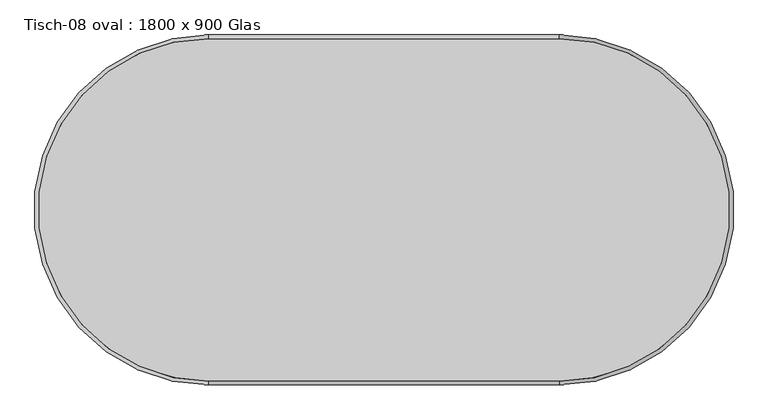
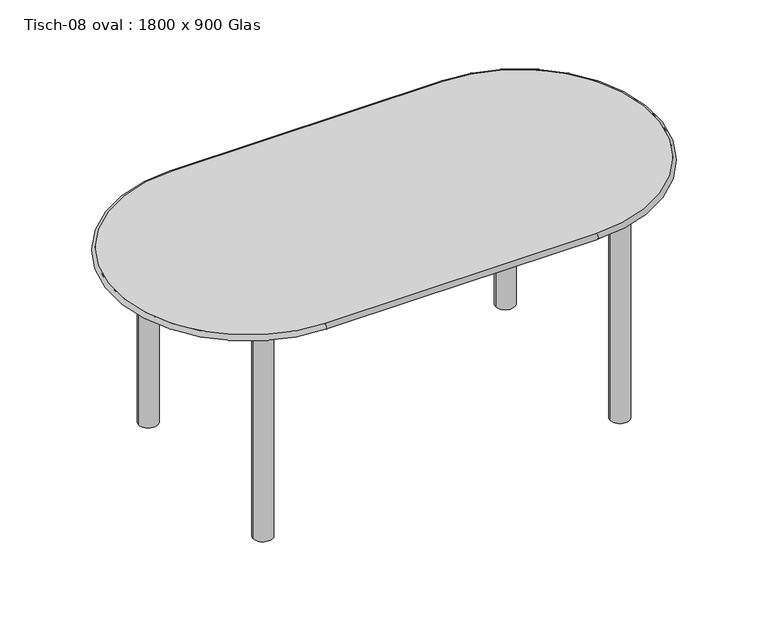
"""IFC4 building model written with IfcOpenShell, lengths in millimetres: furniture geometry, Tisch-08 oval : 1800 x 900 Glas."""

from ifc_helpers import new_model, si_unit, point, frame, frame_2d, origin, origin_with_axes, place, context, project, spatial, polyline, circle_curve, ellipse_curve, trimmed, segment, composite_curve, outline, extrude, source, transform, mapped, element, save
from ifc_brep_helpers import plane_surface, cylinder_surface, revolved_surface, advanced_brep


def tisch_08_oval_1800_x_900_glas_ae678d82(model_context):
    return source(origin(), model_context, "Body", "SolidModel", [
        extrude(outline(composite_curve([segment(trimmed(circle_curve(frame_2d((-993.5446721, -28.7483607)), 31.75), [point((-1025.2946721, -28.7483607))], [point((-961.7946721, -28.7483607))], False, "CARTESIAN"), True, "CONTINUOUS"), segment(trimmed(circle_curve(frame_2d((-993.5446721, -28.7483607)), 31.75), [point((-961.7946721, -28.7483607))], [point((-1025.2946721, -28.7483607))], False, "CARTESIAN"), True, "CONTINUOUS")], self_intersect=False)), origin_with_axes(), (0.0, 0.0, 1.0), 742.95),
        extrude(outline(composite_curve([segment(trimmed(circle_curve(frame_2d((-993.5446721, -687.4483607)), 31.75), [point((-1025.2946721, -687.4483607))], [point((-961.7946721, -687.4483607))], False, "CARTESIAN"), True, "CONTINUOUS"), segment(trimmed(circle_curve(frame_2d((-993.5446721, -687.4483607)), 31.75), [point((-961.7946721, -687.4483607))], [point((-1025.2946721, -687.4483607))], False, "CARTESIAN"), True, "CONTINUOUS")], self_intersect=False)), origin_with_axes(), (0.0, 0.0, 1.0), 742.95),
        extrude(outline(composite_curve([segment(trimmed(circle_curve(frame_2d((189.9053279, -28.7483607)), 31.75), [point((158.1553279, -28.7483607))], [point((221.6553279, -28.7483607))], False, "CARTESIAN"), True, "CONTINUOUS"), segment(trimmed(circle_curve(frame_2d((189.9053279, -28.7483607)), 31.75), [point((221.6553279, -28.7483607))], [point((158.1553279, -28.7483607))], False, "CARTESIAN"), True, "CONTINUOUS")], self_intersect=False)), origin_with_axes(), (0.0, 0.0, 1.0), 742.95),
        extrude(outline(composite_curve([segment(trimmed(circle_curve(frame_2d((189.9053279, -687.4483607)), 31.75), [point((158.1553279, -687.4483607))], [point((221.6553279, -687.4483607))], False, "CARTESIAN"), True, "CONTINUOUS"), segment(trimmed(circle_curve(frame_2d((189.9053279, -687.4483607)), 31.75), [point((221.6553279, -687.4483607))], [point((158.1553279, -687.4483607))], False, "CARTESIAN"), True, "CONTINUOUS")], self_intersect=False)), origin_with_axes(), (0.0, 0.0, 1.0), 742.95),
        extrude(outline(polyline([(208.9553279, -9.6983607), (208.9553279, -706.4983607), (-1012.5946721, -706.4983607), (-1012.5946721, -9.6983607), (208.9553279, -9.6983607)]), holes=[polyline([(189.9053279, -28.7483607), (-993.5446721, -28.7483607), (-993.5446721, -687.4483607), (189.9053279, -687.4483607), (189.9053279, -28.7483607)])]), frame((0.0, 0.0, 692.15), z_axis=(0.0, 0.0, 1.0), x_axis=(1.0, 0.0, 0.0)), (0.0, 0.0, 1.0), 50.8),
        advanced_brep(
        [(-851.8196721, -798.5733607, 762.0), (-851.8196721, -798.5733607, 742.95), (48.1803279, -798.5733607, 742.95), (48.1803279, -798.5733607, 762.0), (488.6553279, -358.0983607, 742.95), (48.1803279, 82.3766393, 742.95), (48.1803279, 82.3766393, 762.0), (488.6553279, -358.0983607, 762.0), (-851.8196721, 82.3766393, 742.95), (-851.8196721, 82.3766393, 762.0), (-1292.2946721, -358.0983607, 762.0), (-1292.2946721, -358.0983607, 742.95)],
        [
            (0, 1, circle_curve(frame((-851.8196721, -798.5733607, 752.475), z_axis=(1.0, 0.0, 0.0), x_axis=(0.0, 1.0, 0.0)), 9.525)),
            (1, 2),
            (2, 3, circle_curve(frame((48.1803279, -798.5733607, 752.475), z_axis=(-1.0, 0.0, 0.0), x_axis=(0.0, 1.0, 0.0)), 9.525)),
            (3, 0),
            (2, 4, circle_curve(frame((48.1803279, -358.0983607, 742.95), z_axis=(0.0, 0.0, 1.0), x_axis=(0.0, -1.0, 0.0)), 440.475)),
            (4, 5, circle_curve(frame((48.1803279, -358.0983607, 742.95), z_axis=(0.0, 0.0, 1.0), x_axis=(0.0, -1.0, 0.0)), 440.475)),
            (5, 6, circle_curve(frame((48.1803279, 82.3766393, 752.475), z_axis=(1.0, 0.0, 0.0), x_axis=(0.0, -1.0, 0.0)), 9.525)),
            (6, 7, circle_curve(frame((48.1803279, -358.0983607, 762.0), z_axis=(0.0, 0.0, -1.0), x_axis=(0.0, -1.0, 0.0)), 440.475)),
            (7, 3, circle_curve(frame((48.1803279, -358.0983607, 762.0), z_axis=(0.0, 0.0, -1.0), x_axis=(0.0, -1.0, 0.0)), 440.475)),
            (5, 8),
            (8, 9, circle_curve(frame((-851.8196721, 82.3766393, 752.475), z_axis=(1.0, 0.0, 0.0), x_axis=(0.0, -1.0, 0.0)), 9.525)),
            (9, 6),
            (0, 10, circle_curve(frame((-851.8196721, -358.0983607, 762.0), z_axis=(0.0, 0.0, -1.0), x_axis=(0.0, 1.0, 0.0)), 440.475)),
            (10, 9, circle_curve(frame((-851.8196721, -358.0983607, 762.0), z_axis=(0.0, 0.0, -1.0), x_axis=(0.0, 1.0, 0.0)), 440.475)),
            (8, 11, circle_curve(frame((-851.8196721, -358.0983607, 742.95), z_axis=(0.0, 0.0, 1.0), x_axis=(0.0, 1.0, 0.0)), 440.475)),
            (11, 1, circle_curve(frame((-851.8196721, -358.0983607, 742.95), z_axis=(0.0, 0.0, 1.0), x_axis=(0.0, 1.0, 0.0)), 440.475)),
        ],
        [
            cylinder_surface(frame((-851.8196721, -798.5733607, 752.475), z_axis=(-1.0, 0.0, 0.0), x_axis=(0.0, 1.0, 0.0)), 9.525),
            revolved_surface(trimmed(ellipse_curve(frame((48.1803279, -798.5733607, 752.475), z_axis=(-1.0, 0.0, 0.0), x_axis=(0.0, 1.0, 0.0)), 9.525, 9.525), [point((48.1803279, -798.5733607, 742.95))], [point((48.1803279, -798.5733607, 762.0))], True, "CARTESIAN"), (48.1803279, -358.0983607, 0.0), (0.0, 0.0, 1.0)),
            cylinder_surface(frame((48.1803279, 82.3766393, 752.475), z_axis=(1.0, 0.0, 0.0), x_axis=(0.0, -1.0, 0.0)), 9.525),
            revolved_surface(trimmed(ellipse_curve(frame((-851.8196721, 82.3766393, 752.475), z_axis=(1.0, 0.0, 0.0), x_axis=(0.0, -1.0, 0.0)), 9.525, 9.525), [point((-851.8196721, 82.3766393, 742.95))], [point((-851.8196721, 82.3766393, 762.0))], True, "CARTESIAN"), (-851.8196721, -358.0983607, 0.0), (0.0, 0.0, 1.0)),
            plane_surface(frame((-411.3446721, -358.0983607, 762.0), z_axis=(0.0, 0.0, 1.0), x_axis=(0.0, 1.0, 0.0))),
            plane_surface(frame((-411.3446721, -358.0983607, 742.95), z_axis=(0.0, 0.0, -1.0), x_axis=(0.0, -1.0, 0.0))),
        ],
        [
            (0, [[1, 2, 3, 4]]),
            (1, [[-3, 5, 6, 7, 8, 9]]),
            (2, [[-7, 10, 11, 12]]),
            (3, [[-1, 13, 14, -11, 15, 16]]),
            (4, [[-4, -9, -8, -12, -14, -13]]),
            (5, [[-2, -16, -15, -10, -6, -5]]),
        ],
    ),
    ])


if __name__ == "__main__":
    model = new_model("IFC4")
    model_context = context("Model", 3, world=origin())
    ifc_project = project(units=[si_unit("LENGTHUNIT", "METRE", prefix="MILLI")], contexts=[model_context])
    site = spatial("IfcSite", under=ifc_project)
    building = spatial("IfcBuilding", under=site)
    placement = place(None, origin())
    tisch_08_oval_1800_x_900_glas_shape = tisch_08_oval_1800_x_900_glas_ae678d82(model_context)
    element("IfcFurniture", 1, ObjectType="Tisch-08 oval : 1800 x 900 Glas", at=placement, inside=building, context=model_context, shape_type="MappedRepresentation", body=[
        mapped(tisch_08_oval_1800_x_900_glas_shape, transform((0.0, 0.0, 0.0), x_axis=(1.0, 0.0, 0.0), y_axis=(0.0, 1.0, 0.0), z_axis=(0.0, 0.0, 1.0))),
    ])
    save(model, "model.ifc")
